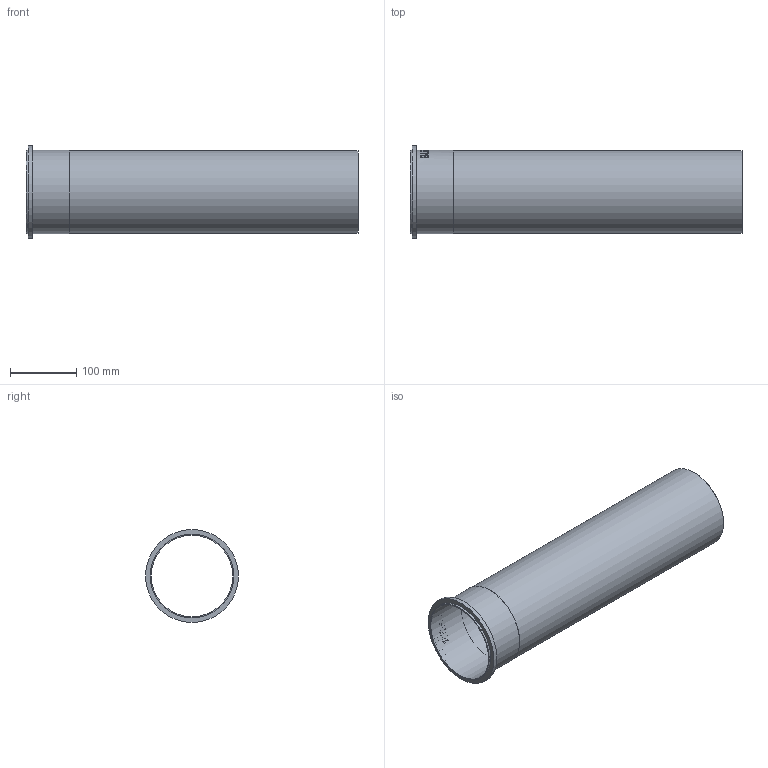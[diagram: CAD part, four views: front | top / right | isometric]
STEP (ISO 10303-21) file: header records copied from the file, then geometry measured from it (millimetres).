
FILE_DESCRIPTION((''),'2;1');
FILE_NAME('I:\WATTS\3D_CAD\3D_CAD_Models\Blucher_Drains\P_StraightPipe\WebsiteFiles\3D\STEP\P5-1.6-316.stp','2009-12-02T14:25:31',('menesek'),(''),'Autodesk Inventor 2010','Autodesk Inventor 2010','');
FILE_SCHEMA(('AUTOMOTIVE_DESIGN { 1 0 10303 214 1 1 1 1 }'));
Length unit declared in the file: inch
Products named in the file (1): P5-1.6-316
Bounding box: 500 x 139.95 x 139.95 mm (x, y, z)
Volume: 229283.6 mm3; surface area: 397032.2 mm2
Topology: 1 solids, 1 shells, 109 faces, 285 edges, 190 vertices
Faces by surface type: plane 59, bspline 34, cylinder 16
Full cylindrical faces by diameter (mm): 122.936 x1, 124.968 x1, 125.984 x2, 139.954 x1
Entity records: 13939 total; most frequent: CARTESIAN_POINT 11561, ORIENTED_EDGE 548, DIRECTION 356, EDGE_CURVE 274, VERTEX_POINT 186, EDGE_LOOP 128, AXIS2_PLACEMENT_3D 120, VECTOR 116
